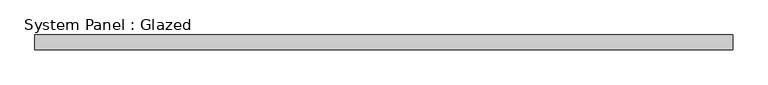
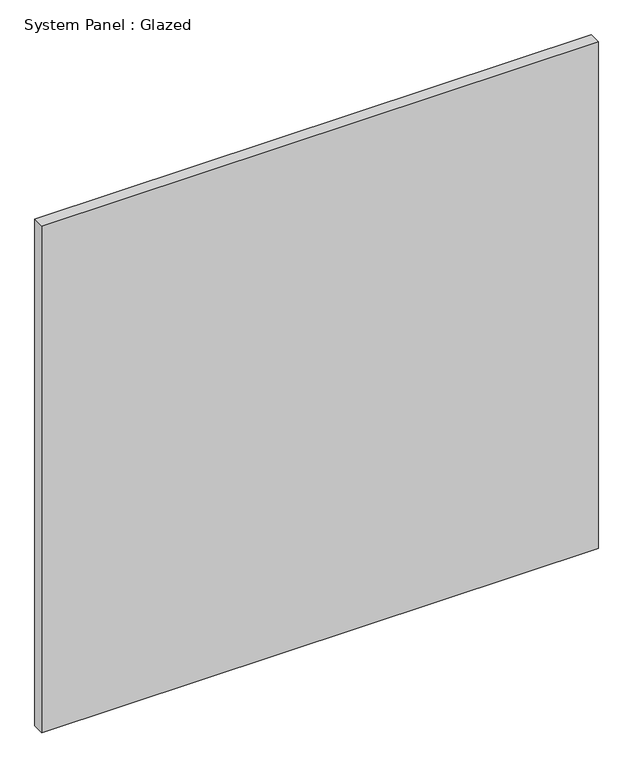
"""IFC4 building model written with IfcOpenShell, lengths in millimetres: plate geometry, System Panel : Glazed."""

from ifc_helpers import new_model, si_unit, origin, origin_with_axes, place, context, project, spatial, polyline, outline, extrude, source, transform, mapped, element, save


def system_panel_glazed_4631d9b2(model_context):
    return source(origin(), model_context, "Body", "SweptSolid", [
        extrude(outline(polyline([(597.3125, -49.5), (-597.3125, -49.5), (-597.3125, -24.5), (597.3125, -24.5), (597.3125, -49.5)])), origin_with_axes(), (0.0, 0.0, 1.0), 1150.0),
    ])


if __name__ == "__main__":
    model = new_model("IFC4")
    model_context = context("Model", 3, world=origin())
    ifc_project = project(units=[si_unit("LENGTHUNIT", "METRE", prefix="MILLI")], contexts=[model_context])
    site = spatial("IfcSite", under=ifc_project)
    building = spatial("IfcBuilding", under=site)
    placement = place(None, origin())
    system_panel_glazed_shape = system_panel_glazed_4631d9b2(model_context)
    element("IfcPlate", 1, ObjectType="System Panel : Glazed", at=placement, inside=building, context=model_context, shape_type="MappedRepresentation", body=[
        mapped(system_panel_glazed_shape, transform((0.0, 0.0, 0.0), x_axis=(1.0, 0.0, 0.0), y_axis=(0.0, 1.0, 0.0), z_axis=(0.0, 0.0, 1.0))),
    ])
    save(model, "model.ifc")
